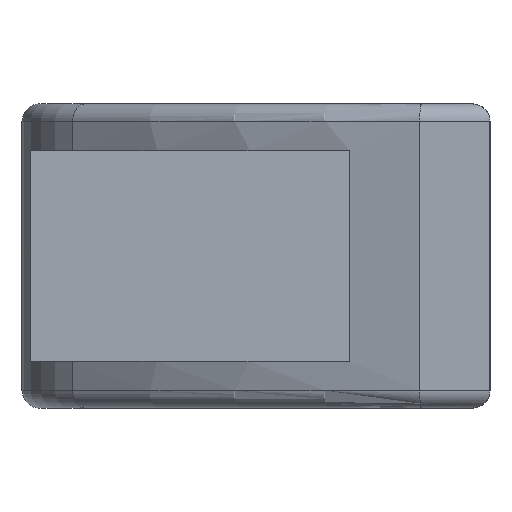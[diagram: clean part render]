
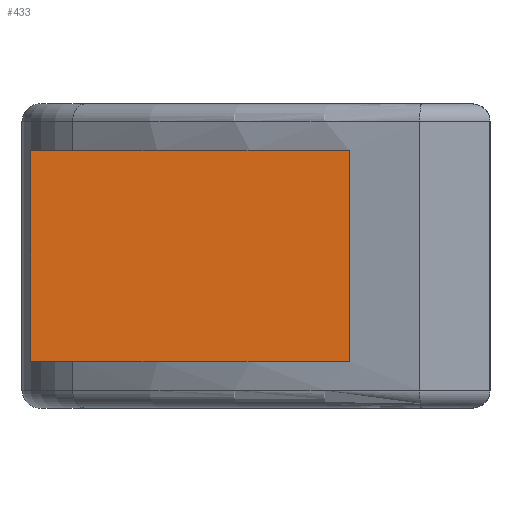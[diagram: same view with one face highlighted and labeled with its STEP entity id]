
A CAD part, left-side view. The second image highlights one B-rep face of the part: STEP entity #433.
In plain terms, the highlighted planar face has unit normal (-1, 0, 0).
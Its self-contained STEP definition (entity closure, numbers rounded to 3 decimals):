
#58 = VECTOR ( 'NONE', #474, 1000. ) ;
#67 = VERTEX_POINT ( 'NONE', #354 ) ;
#72 = PLANE ( 'NONE',  #1918 ) ;
#79 = VERTEX_POINT ( 'NONE', #1205 ) ;
#303 = ORIENTED_EDGE ( 'NONE', *, *, #1444, .T. ) ;
#354 = CARTESIAN_POINT ( 'NONE',  ( -51., 12., 9. ) ) ;
#388 = CARTESIAN_POINT ( 'NONE',  ( -51., 12., -9. ) ) ;
#391 = LINE ( 'NONE', #1053, #846 ) ;
#433 = ADVANCED_FACE ( 'NONE', ( #435 ), #72, .F. ) ;
#435 = FACE_OUTER_BOUND ( 'NONE', #817, .T. ) ;
#442 = LINE ( 'NONE', #1452, #58 ) ;
#474 = DIRECTION ( 'NONE',  ( 0., 1., 0. ) ) ;
#583 = DIRECTION ( 'NONE',  ( 1., 0., 0. ) ) ;
#720 = DIRECTION ( 'NONE',  ( 0., 0., 1. ) ) ;
#735 = VECTOR ( 'NONE', #720, 1000. ) ;
#791 = CARTESIAN_POINT ( 'NONE',  ( -51., 39.243, -9. ) ) ;
#799 = CARTESIAN_POINT ( 'NONE',  ( -51., 39.243, -9. ) ) ;
#813 = CARTESIAN_POINT ( 'NONE',  ( -51., 39.243, -9. ) ) ;
#817 = EDGE_LOOP ( 'NONE', ( #1035, #1478, #1860, #303 ) ) ;
#846 = VECTOR ( 'NONE', #1720, 1000. ) ;
#1035 = ORIENTED_EDGE ( 'NONE', *, *, #1113, .T. ) ;
#1053 = CARTESIAN_POINT ( 'NONE',  ( -51., 39.243, 9. ) ) ;
#1113 = EDGE_CURVE ( 'NONE', #67, #79, #391, .T. ) ;
#1119 = DIRECTION ( 'NONE',  ( 0., 0., 1. ) ) ;
#1205 = CARTESIAN_POINT ( 'NONE',  ( -51., 39.243, 9. ) ) ;
#1444 = EDGE_CURVE ( 'NONE', #1629, #67, #1676, .T. ) ;
#1449 = LINE ( 'NONE', #791, #1497 ) ;
#1452 = CARTESIAN_POINT ( 'NONE',  ( -51., 39.243, -9. ) ) ;
#1457 = DIRECTION ( 'NONE',  ( 0., 0., -1. ) ) ;
#1478 = ORIENTED_EDGE ( 'NONE', *, *, #1663, .F. ) ;
#1497 = VECTOR ( 'NONE', #1119, 1000. ) ;
#1629 = VERTEX_POINT ( 'NONE', #1717 ) ;
#1663 = EDGE_CURVE ( 'NONE', #1884, #79, #1449, .T. ) ;
#1676 = LINE ( 'NONE', #388, #735 ) ;
#1717 = CARTESIAN_POINT ( 'NONE',  ( -51., 12., -9. ) ) ;
#1720 = DIRECTION ( 'NONE',  ( 0., 1., 0. ) ) ;
#1804 = EDGE_CURVE ( 'NONE', #1629, #1884, #442, .T. ) ;
#1860 = ORIENTED_EDGE ( 'NONE', *, *, #1804, .F. ) ;
#1884 = VERTEX_POINT ( 'NONE', #813 ) ;
#1918 = AXIS2_PLACEMENT_3D ( 'NONE', #799, #583, #1457 ) ;
